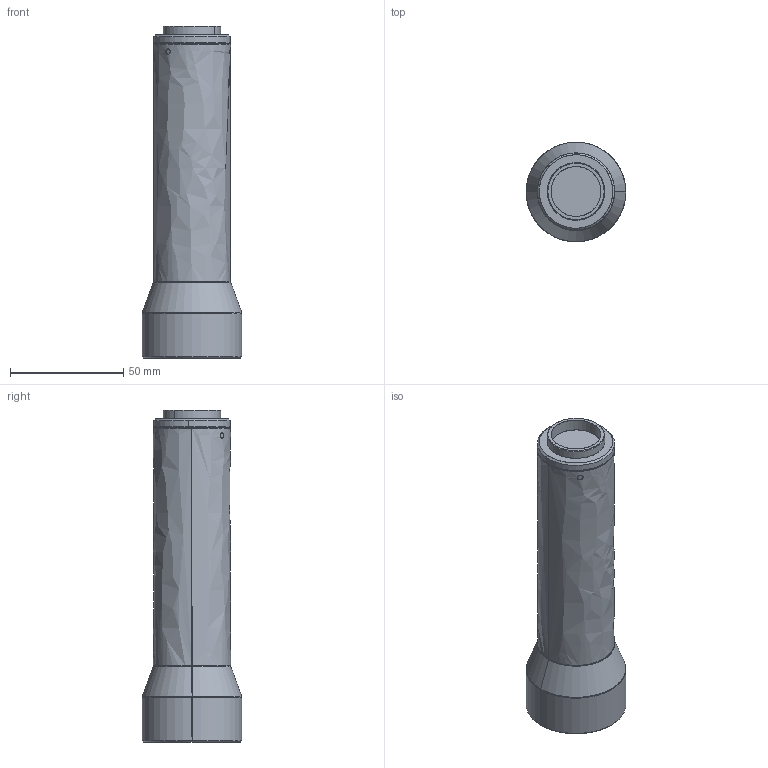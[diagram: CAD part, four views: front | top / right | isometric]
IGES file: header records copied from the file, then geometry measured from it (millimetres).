
Start section: SolidWorks IGES file using analytic representation for surfaces
Global section: file name: E:\liang\光学镜头\WWK\K0810-110系列\WWK10-110-111V3\发客户3D图\WWK10-110-111V3.IGS; native system: SolidWorks 2017; preprocessor: SolidWorks 2017; author: wenru; date: 220927.150457; units: millimetre
Bounding box: 44 x 44 x 146.39 mm (x, y, z)
Surface area: 19656.1 mm2 (no closed solid volume)
Topology: 0 solids, 0 shells, 56 faces, 1248 edges, 1248 vertices
Faces by surface type: revolution 37, bspline 19
